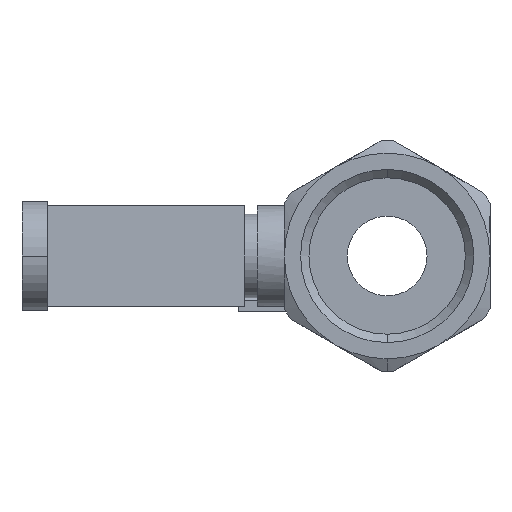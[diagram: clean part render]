
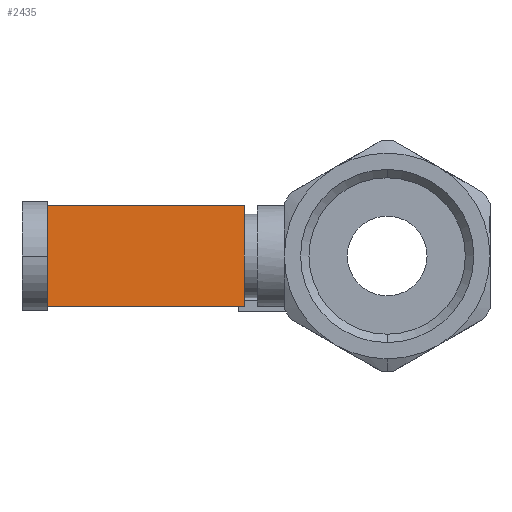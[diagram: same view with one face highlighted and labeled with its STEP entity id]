
A CAD part, left-side view. The second image highlights one B-rep face of the part: STEP entity #2435.
In plain terms, the highlighted planar face has unit normal (-0.707, -0.707, 0).
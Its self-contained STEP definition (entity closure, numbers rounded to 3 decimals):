
#71 = DIRECTION ( 'NONE',  ( 0., 0., -1. ) ) ;
#98 = ORIENTED_EDGE ( 'NONE', *, *, #2129, .F. ) ;
#123 = CARTESIAN_POINT ( 'NONE',  ( -34., 41., -6. ) ) ;
#433 = EDGE_CURVE ( 'NONE', #3606, #2835, #2683, .T. ) ;
#526 = CARTESIAN_POINT ( 'NONE',  ( -34., 41., 6. ) ) ;
#532 = CARTESIAN_POINT ( 'NONE',  ( -34., 41., -6. ) ) ;
#565 = DIRECTION ( 'NONE',  ( 0.707, 0.707, 0. ) ) ;
#589 = CARTESIAN_POINT ( 'NONE',  ( -10., 17., -6. ) ) ;
#845 = VERTEX_POINT ( 'NONE', #2802 ) ;
#885 = VECTOR ( 'NONE', #1440, 1000. ) ;
#941 = CARTESIAN_POINT ( 'NONE',  ( -34., 41., 6. ) ) ;
#975 = VECTOR ( 'NONE', #71, 1000. ) ;
#1119 = CARTESIAN_POINT ( 'NONE',  ( -34., 41., 6. ) ) ;
#1168 = LINE ( 'NONE', #1119, #2622 ) ;
#1265 = ORIENTED_EDGE ( 'NONE', *, *, #433, .T. ) ;
#1440 = DIRECTION ( 'NONE',  ( 0., 0., -1. ) ) ;
#1487 = VECTOR ( 'NONE', #1934, 1000. ) ;
#1614 = EDGE_CURVE ( 'NONE', #3323, #3606, #1697, .T. ) ;
#1697 = LINE ( 'NONE', #526, #885 ) ;
#1762 = CARTESIAN_POINT ( 'NONE',  ( -34., 41., 6. ) ) ;
#1780 = LINE ( 'NONE', #3693, #975 ) ;
#1824 = FACE_OUTER_BOUND ( 'NONE', #2038, .T. ) ;
#1934 = DIRECTION ( 'NONE',  ( 0.707, -0.707, 0. ) ) ;
#2038 = EDGE_LOOP ( 'NONE', ( #1265, #98, #3278, #3481 ) ) ;
#2129 = EDGE_CURVE ( 'NONE', #845, #2835, #1780, .T. ) ;
#2435 = ADVANCED_FACE ( 'NONE', ( #1824 ), #2950, .F. ) ;
#2622 = VECTOR ( 'NONE', #3529, 1000. ) ;
#2648 = DIRECTION ( 'NONE',  ( -0.707, 0.707, 0. ) ) ;
#2657 = EDGE_CURVE ( 'NONE', #3323, #845, #1168, .T. ) ;
#2683 = LINE ( 'NONE', #123, #1487 ) ;
#2802 = CARTESIAN_POINT ( 'NONE',  ( -10., 17., 6. ) ) ;
#2835 = VERTEX_POINT ( 'NONE', #589 ) ;
#2950 = PLANE ( 'NONE',  #3597 ) ;
#3278 = ORIENTED_EDGE ( 'NONE', *, *, #2657, .F. ) ;
#3323 = VERTEX_POINT ( 'NONE', #941 ) ;
#3481 = ORIENTED_EDGE ( 'NONE', *, *, #1614, .T. ) ;
#3529 = DIRECTION ( 'NONE',  ( 0.707, -0.707, 0. ) ) ;
#3597 = AXIS2_PLACEMENT_3D ( 'NONE', #1762, #565, #2648 ) ;
#3606 = VERTEX_POINT ( 'NONE', #532 ) ;
#3693 = CARTESIAN_POINT ( 'NONE',  ( -10., 17., 6. ) ) ;
